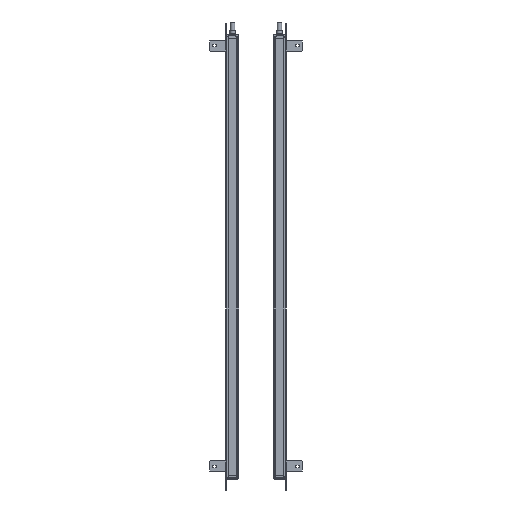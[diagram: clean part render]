
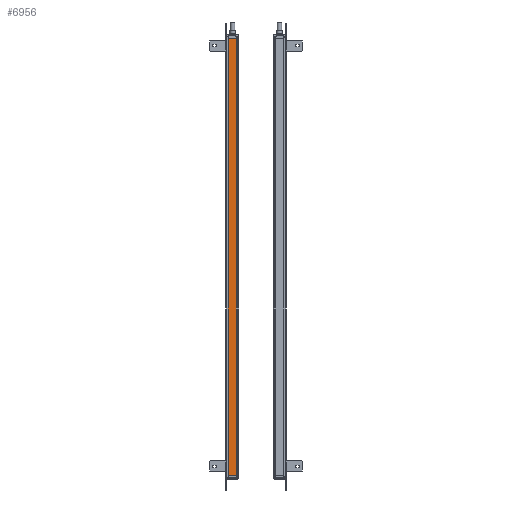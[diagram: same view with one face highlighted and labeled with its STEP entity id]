
A CAD part, left-side view. The second image highlights one B-rep face of the part: STEP entity #6956.
In plain terms, the highlighted planar face has unit normal (-1, 0, 0).
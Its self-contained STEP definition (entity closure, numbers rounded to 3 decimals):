
#953=FACE_OUTER_BOUND('',#9034,.T.);
#2188=LINE('',#33710,#4326);
#2290=LINE('',#34050,#4428);
#2291=LINE('',#34052,#4429);
#2292=LINE('',#34054,#4430);
#4326=VECTOR('',#26897,1.);
#4428=VECTOR('',#27185,1.);
#4429=VECTOR('',#27188,1.);
#4430=VECTOR('',#27189,1.);
#6178=PLANE('',#23723);
#6956=ADVANCED_FACE('',(#953),#6178,.T.);
#9034=EDGE_LOOP('',(#11681,#11682,#11683,#11684));
#11681=ORIENTED_EDGE('',*,*,#19828,.F.);
#11682=ORIENTED_EDGE('',*,*,#19829,.T.);
#11683=ORIENTED_EDGE('',*,*,#19830,.T.);
#11684=ORIENTED_EDGE('',*,*,#19658,.F.);
#17203=VERTEX_POINT('',#33709);
#17204=VERTEX_POINT('',#33711);
#17348=VERTEX_POINT('',#34049);
#17349=VERTEX_POINT('',#34053);
#19658=EDGE_CURVE('',#17203,#17204,#2188,.T.);
#19828=EDGE_CURVE('',#17348,#17203,#2290,.T.);
#19829=EDGE_CURVE('',#17348,#17349,#2291,.T.);
#19830=EDGE_CURVE('',#17349,#17204,#2292,.T.);
#23723=AXIS2_PLACEMENT_3D('',#34055,#27190,#27191);
#26897=DIRECTION('',(0.,-1.,0.));
#27185=DIRECTION('',(0.,0.,1.));
#27188=DIRECTION('',(0.,-1.,0.));
#27189=DIRECTION('',(0.,0.,1.));
#27190=DIRECTION('',(-1.,0.,0.));
#27191=DIRECTION('',(0.,-1.,0.));
#33709=CARTESIAN_POINT('',(233.846,104.141,31.645));
#33710=CARTESIAN_POINT('',(233.846,81.141,31.645));
#33711=CARTESIAN_POINT('',(233.846,81.141,31.645));
#34049=CARTESIAN_POINT('',(233.846,104.141,-1183.355));
#34050=CARTESIAN_POINT('',(233.846,104.141,-155.355));
#34052=CARTESIAN_POINT('',(233.846,81.141,-1183.355));
#34053=CARTESIAN_POINT('',(233.846,81.141,-1183.355));
#34054=CARTESIAN_POINT('',(233.846,81.141,-155.355));
#34055=CARTESIAN_POINT('',(233.846,81.141,-50.355));
